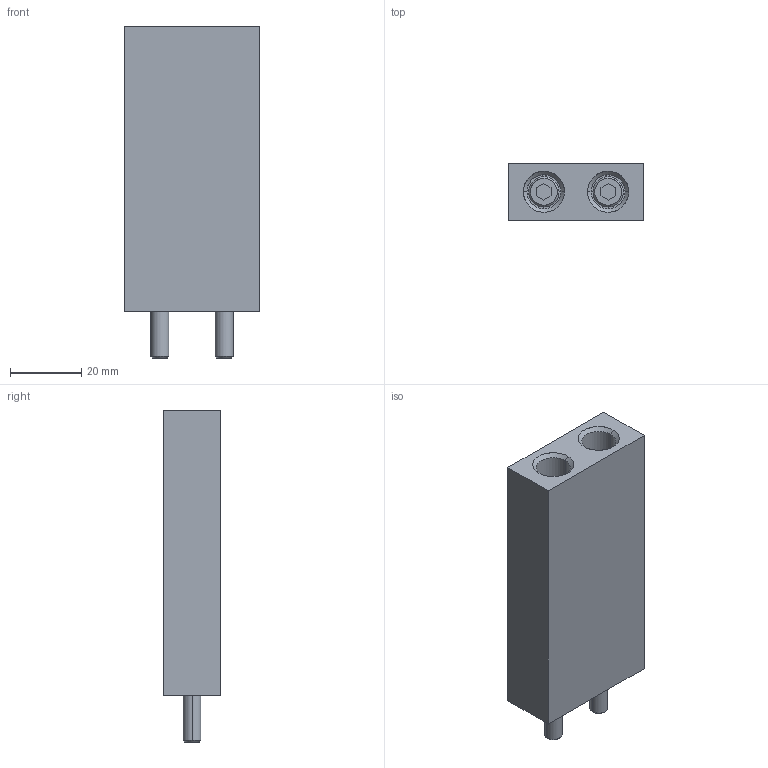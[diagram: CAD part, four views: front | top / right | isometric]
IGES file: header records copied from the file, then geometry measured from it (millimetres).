
Global section: file name: E:\UnigraphicsGraphicData\MISUMI_PRESS-PARTS\IGES\3d_sbvk16-38-80-r-80_00151_r00.igs; native system: NX V5.0; preprocessor: UGS NX IGES V5.0; author: MISUMI; date: 20110105.162510; units: millimetre
Bounding box: 38 x 16 x 93 mm (x, y, z)
Surface area: 16062.8 mm2 (no closed solid volume)
Topology: 0 solids, 0 shells, 56 faces, 336 edges, 336 vertices
Faces by surface type: bspline 56
